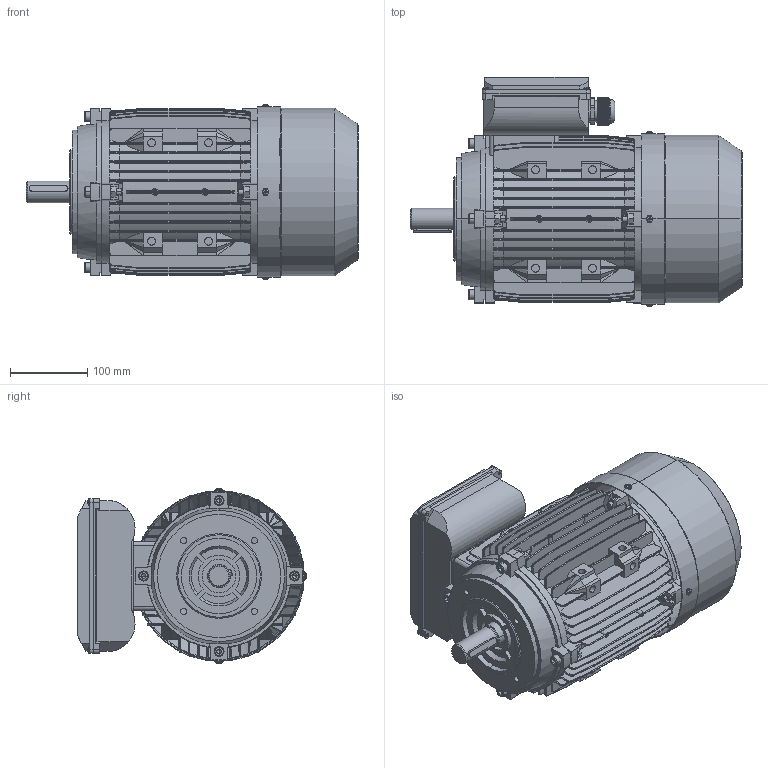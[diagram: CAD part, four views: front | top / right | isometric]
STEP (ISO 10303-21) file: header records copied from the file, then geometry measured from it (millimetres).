
FILE_DESCRIPTION (( 'STEP AP214' ), '1' );
FILE_NAME ('BDM0370.11E414.11.step', '2020-04-23T13:04:05', ( '' ), ( '' ), 'SwSTEP 2.0', 'SolidWorks 2019', '' );
FILE_SCHEMA (( 'AUTOMOTIVE_DESIGN' ));
Length unit declared in the file: millimetre
Products named in the file (1): BDM0370.11E414.11
Bounding box: 431 x 297.77 x 227.54 mm (x, y, z)
Volume: 2279973.9 mm3; surface area: 1301097.5 mm2
Topology: 33 solids, 33 shells, 4133 faces, 10801 edges, 6809 vertices
Faces by surface type: plane 2324, cylinder 1160, bspline 282, cone 228, torus 85, sphere 54
Entity records: 143569 total; most frequent: CARTESIAN_POINT 44256, ORIENTED_EDGE 21522, DIRECTION 19181, EDGE_CURVE 10761, VERTEX_POINT 6809, VECTOR 6689, LINE 6689, AXIS2_PLACEMENT_3D 6246
